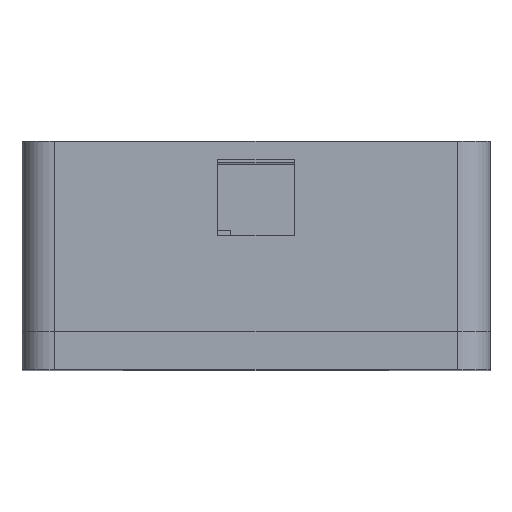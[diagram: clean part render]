
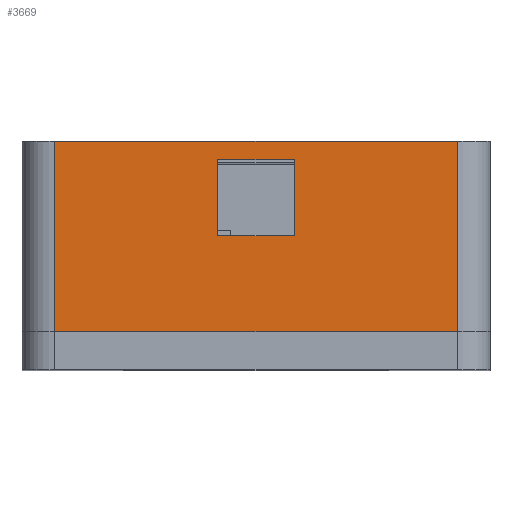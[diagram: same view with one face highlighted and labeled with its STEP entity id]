
A CAD part, top view. The second image highlights one B-rep face of the part: STEP entity #3669.
In plain terms, the highlighted planar face has unit normal (0, 0, 1).
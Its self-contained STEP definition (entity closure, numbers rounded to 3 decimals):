
#2711 = PLANE('',#2712);
#2712 = AXIS2_PLACEMENT_3D('',#2713,#2714,#2715);
#2713 = CARTESIAN_POINT('',(-18.,-4.5,-36.));
#2714 = DIRECTION('',(0.,1.,0.));
#2715 = DIRECTION('',(0.,0.,1.));
#2767 = PLANE('',#2768);
#2768 = AXIS2_PLACEMENT_3D('',#2769,#2770,#2771);
#2769 = CARTESIAN_POINT('',(-18.,13.,-36.));
#2770 = DIRECTION('',(0.,1.,0.));
#2771 = DIRECTION('',(0.,0.,1.));
#2793 = CYLINDRICAL_SURFACE('',#2794,3.);
#2794 = AXIS2_PLACEMENT_3D('',#2795,#2796,#2797);
#2795 = CARTESIAN_POINT('',(-15.,-4.5,33.));
#2796 = DIRECTION('',(0.,1.,0.));
#2797 = DIRECTION('',(-1.,0.,0.));
#2866 = VERTEX_POINT('',#2867);
#2867 = CARTESIAN_POINT('',(-15.,-4.5,36.));
#2889 = EDGE_CURVE('',#2866,#2890,#2892,.T.);
#2890 = VERTEX_POINT('',#2891);
#2891 = CARTESIAN_POINT('',(22.,-4.5,36.));
#2892 = SURFACE_CURVE('',#2893,(#2897,#2904),.PCURVE_S1.);
#2893 = LINE('',#2894,#2895);
#2894 = CARTESIAN_POINT('',(-18.,-4.5,36.));
#2895 = VECTOR('',#2896,1.);
#2896 = DIRECTION('',(1.,0.,0.));
#2897 = PCURVE('',#2711,#2898);
#2898 = DEFINITIONAL_REPRESENTATION('',(#2899),#2903);
#2899 = LINE('',#2900,#2901);
#2900 = CARTESIAN_POINT('',(72.,0.));
#2901 = VECTOR('',#2902,1.);
#2902 = DIRECTION('',(0.,1.));
#2903 = ( GEOMETRIC_REPRESENTATION_CONTEXT(2) 
PARAMETRIC_REPRESENTATION_CONTEXT() REPRESENTATION_CONTEXT('2D SPACE',''
  ) );
#2904 = PCURVE('',#2905,#2910);
#2905 = PLANE('',#2906);
#2906 = AXIS2_PLACEMENT_3D('',#2907,#2908,#2909);
#2907 = CARTESIAN_POINT('',(-18.,-4.5,36.));
#2908 = DIRECTION('',(0.,0.,1.));
#2909 = DIRECTION('',(1.,0.,0.));
#2910 = DEFINITIONAL_REPRESENTATION('',(#2911),#2915);
#2911 = LINE('',#2912,#2913);
#2912 = CARTESIAN_POINT('',(0.,0.));
#2913 = VECTOR('',#2914,1.);
#2914 = DIRECTION('',(1.,0.));
#2915 = ( GEOMETRIC_REPRESENTATION_CONTEXT(2) 
PARAMETRIC_REPRESENTATION_CONTEXT() REPRESENTATION_CONTEXT('2D SPACE',''
  ) );
#2938 = CYLINDRICAL_SURFACE('',#2939,3.);
#2939 = AXIS2_PLACEMENT_3D('',#2940,#2941,#2942);
#2940 = CARTESIAN_POINT('',(22.,-4.5,33.));
#2941 = DIRECTION('',(0.,1.,0.));
#2942 = DIRECTION('',(1.,0.,-0.));
#3285 = EDGE_CURVE('',#2866,#3286,#3288,.T.);
#3286 = VERTEX_POINT('',#3287);
#3287 = CARTESIAN_POINT('',(-15.,13.,36.));
#3288 = SURFACE_CURVE('',#3289,(#3293,#3300),.PCURVE_S1.);
#3289 = LINE('',#3290,#3291);
#3290 = CARTESIAN_POINT('',(-15.,-4.5,36.));
#3291 = VECTOR('',#3292,1.);
#3292 = DIRECTION('',(0.,1.,0.));
#3293 = PCURVE('',#2793,#3294);
#3294 = DEFINITIONAL_REPRESENTATION('',(#3295),#3299);
#3295 = LINE('',#3296,#3297);
#3296 = CARTESIAN_POINT('',(1.571,0.));
#3297 = VECTOR('',#3298,1.);
#3298 = DIRECTION('',(0.,1.));
#3299 = ( GEOMETRIC_REPRESENTATION_CONTEXT(2) 
PARAMETRIC_REPRESENTATION_CONTEXT() REPRESENTATION_CONTEXT('2D SPACE',''
  ) );
#3300 = PCURVE('',#2905,#3301);
#3301 = DEFINITIONAL_REPRESENTATION('',(#3302),#3306);
#3302 = LINE('',#3303,#3304);
#3303 = CARTESIAN_POINT('',(3.,0.));
#3304 = VECTOR('',#3305,1.);
#3305 = DIRECTION('',(0.,1.));
#3306 = ( GEOMETRIC_REPRESENTATION_CONTEXT(2) 
PARAMETRIC_REPRESENTATION_CONTEXT() REPRESENTATION_CONTEXT('2D SPACE',''
  ) );
#3360 = EDGE_CURVE('',#3286,#3361,#3363,.T.);
#3361 = VERTEX_POINT('',#3362);
#3362 = CARTESIAN_POINT('',(22.,13.,36.));
#3363 = SURFACE_CURVE('',#3364,(#3368,#3375),.PCURVE_S1.);
#3364 = LINE('',#3365,#3366);
#3365 = CARTESIAN_POINT('',(-18.,13.,36.));
#3366 = VECTOR('',#3367,1.);
#3367 = DIRECTION('',(1.,0.,0.));
#3368 = PCURVE('',#2767,#3369);
#3369 = DEFINITIONAL_REPRESENTATION('',(#3370),#3374);
#3370 = LINE('',#3371,#3372);
#3371 = CARTESIAN_POINT('',(72.,0.));
#3372 = VECTOR('',#3373,1.);
#3373 = DIRECTION('',(0.,1.));
#3374 = ( GEOMETRIC_REPRESENTATION_CONTEXT(2) 
PARAMETRIC_REPRESENTATION_CONTEXT() REPRESENTATION_CONTEXT('2D SPACE',''
  ) );
#3375 = PCURVE('',#2905,#3376);
#3376 = DEFINITIONAL_REPRESENTATION('',(#3377),#3381);
#3377 = LINE('',#3378,#3379);
#3378 = CARTESIAN_POINT('',(0.,17.5));
#3379 = VECTOR('',#3380,1.);
#3380 = DIRECTION('',(1.,0.));
#3381 = ( GEOMETRIC_REPRESENTATION_CONTEXT(2) 
PARAMETRIC_REPRESENTATION_CONTEXT() REPRESENTATION_CONTEXT('2D SPACE',''
  ) );
#3647 = EDGE_CURVE('',#2890,#3361,#3648,.T.);
#3648 = SURFACE_CURVE('',#3649,(#3653,#3660),.PCURVE_S1.);
#3649 = LINE('',#3650,#3651);
#3650 = CARTESIAN_POINT('',(22.,-4.5,36.));
#3651 = VECTOR('',#3652,1.);
#3652 = DIRECTION('',(0.,1.,0.));
#3653 = PCURVE('',#2938,#3654);
#3654 = DEFINITIONAL_REPRESENTATION('',(#3655),#3659);
#3655 = LINE('',#3656,#3657);
#3656 = CARTESIAN_POINT('',(-1.571,0.));
#3657 = VECTOR('',#3658,1.);
#3658 = DIRECTION('',(-0.,1.));
#3659 = ( GEOMETRIC_REPRESENTATION_CONTEXT(2) 
PARAMETRIC_REPRESENTATION_CONTEXT() REPRESENTATION_CONTEXT('2D SPACE',''
  ) );
#3660 = PCURVE('',#2905,#3661);
#3661 = DEFINITIONAL_REPRESENTATION('',(#3662),#3666);
#3662 = LINE('',#3663,#3664);
#3663 = CARTESIAN_POINT('',(40.,0.));
#3664 = VECTOR('',#3665,1.);
#3665 = DIRECTION('',(0.,1.));
#3666 = ( GEOMETRIC_REPRESENTATION_CONTEXT(2) 
PARAMETRIC_REPRESENTATION_CONTEXT() REPRESENTATION_CONTEXT('2D SPACE',''
  ) );
#3669 = ADVANCED_FACE('',(#3670,#3676),#2905,.T.);
#3670 = FACE_BOUND('',#3671,.T.);
#3671 = EDGE_LOOP('',(#3672,#3673,#3674,#3675));
#3672 = ORIENTED_EDGE('',*,*,#3360,.F.);
#3673 = ORIENTED_EDGE('',*,*,#3285,.F.);
#3674 = ORIENTED_EDGE('',*,*,#2889,.T.);
#3675 = ORIENTED_EDGE('',*,*,#3647,.T.);
#3676 = FACE_BOUND('',#3677,.T.);
#3677 = EDGE_LOOP('',(#3678,#3706,#3732,#3758));
#3678 = ORIENTED_EDGE('',*,*,#3679,.T.);
#3679 = EDGE_CURVE('',#3680,#3682,#3684,.T.);
#3680 = VERTEX_POINT('',#3681);
#3681 = CARTESIAN_POINT('',(7.,4.3,36.));
#3682 = VERTEX_POINT('',#3683);
#3683 = CARTESIAN_POINT('',(0.,4.3,36.));
#3684 = SURFACE_CURVE('',#3685,(#3689,#3695),.PCURVE_S1.);
#3685 = LINE('',#3686,#3687);
#3686 = CARTESIAN_POINT('',(-9.,4.3,36.));
#3687 = VECTOR('',#3688,1.);
#3688 = DIRECTION('',(-1.,0.,0.));
#3689 = PCURVE('',#2905,#3690);
#3690 = DEFINITIONAL_REPRESENTATION('',(#3691),#3694);
#3691 = B_SPLINE_CURVE_WITH_KNOTS('',1,(#3692,#3693),.UNSPECIFIED.,.F.,
  .F.,(2,2),(-16.,-9.),.PIECEWISE_BEZIER_KNOTS.);
#3692 = CARTESIAN_POINT('',(25.,8.8));
#3693 = CARTESIAN_POINT('',(18.,8.8));
#3694 = ( GEOMETRIC_REPRESENTATION_CONTEXT(2) 
PARAMETRIC_REPRESENTATION_CONTEXT() REPRESENTATION_CONTEXT('2D SPACE',''
  ) );
#3695 = PCURVE('',#3696,#3701);
#3696 = PLANE('',#3697);
#3697 = AXIS2_PLACEMENT_3D('',#3698,#3699,#3700);
#3698 = CARTESIAN_POINT('',(0.,4.3,32.5));
#3699 = DIRECTION('',(0.,1.,0.));
#3700 = DIRECTION('',(0.,0.,1.));
#3701 = DEFINITIONAL_REPRESENTATION('',(#3702),#3705);
#3702 = B_SPLINE_CURVE_WITH_KNOTS('',1,(#3703,#3704),.UNSPECIFIED.,.F.,
  .F.,(2,2),(-16.,-9.),.PIECEWISE_BEZIER_KNOTS.);
#3703 = CARTESIAN_POINT('',(3.5,7.));
#3704 = CARTESIAN_POINT('',(3.5,0.));
#3705 = ( GEOMETRIC_REPRESENTATION_CONTEXT(2) 
PARAMETRIC_REPRESENTATION_CONTEXT() REPRESENTATION_CONTEXT('2D SPACE',''
  ) );
#3706 = ORIENTED_EDGE('',*,*,#3707,.T.);
#3707 = EDGE_CURVE('',#3682,#3708,#3710,.T.);
#3708 = VERTEX_POINT('',#3709);
#3709 = CARTESIAN_POINT('',(0.,11.3,36.));
#3710 = SURFACE_CURVE('',#3711,(#3715,#3721),.PCURVE_S1.);
#3711 = LINE('',#3712,#3713);
#3712 = CARTESIAN_POINT('',(0.,-0.1,36.));
#3713 = VECTOR('',#3714,1.);
#3714 = DIRECTION('',(0.,1.,0.));
#3715 = PCURVE('',#2905,#3716);
#3716 = DEFINITIONAL_REPRESENTATION('',(#3717),#3720);
#3717 = B_SPLINE_CURVE_WITH_KNOTS('',1,(#3718,#3719),.UNSPECIFIED.,.F.,
  .F.,(2,2),(4.4,11.4),.PIECEWISE_BEZIER_KNOTS.);
#3718 = CARTESIAN_POINT('',(18.,8.8));
#3719 = CARTESIAN_POINT('',(18.,15.8));
#3720 = ( GEOMETRIC_REPRESENTATION_CONTEXT(2) 
PARAMETRIC_REPRESENTATION_CONTEXT() REPRESENTATION_CONTEXT('2D SPACE',''
  ) );
#3721 = PCURVE('',#3722,#3727);
#3722 = PLANE('',#3723);
#3723 = AXIS2_PLACEMENT_3D('',#3724,#3725,#3726);
#3724 = CARTESIAN_POINT('',(0.,4.3,32.5));
#3725 = DIRECTION('',(1.,0.,0.));
#3726 = DIRECTION('',(0.,0.,1.));
#3727 = DEFINITIONAL_REPRESENTATION('',(#3728),#3731);
#3728 = B_SPLINE_CURVE_WITH_KNOTS('',1,(#3729,#3730),.UNSPECIFIED.,.F.,
  .F.,(2,2),(4.4,11.4),.PIECEWISE_BEZIER_KNOTS.);
#3729 = CARTESIAN_POINT('',(3.5,0.));
#3730 = CARTESIAN_POINT('',(3.5,-7.));
#3731 = ( GEOMETRIC_REPRESENTATION_CONTEXT(2) 
PARAMETRIC_REPRESENTATION_CONTEXT() REPRESENTATION_CONTEXT('2D SPACE',''
  ) );
#3732 = ORIENTED_EDGE('',*,*,#3733,.F.);
#3733 = EDGE_CURVE('',#3734,#3708,#3736,.T.);
#3734 = VERTEX_POINT('',#3735);
#3735 = CARTESIAN_POINT('',(7.,11.3,36.));
#3736 = SURFACE_CURVE('',#3737,(#3741,#3747),.PCURVE_S1.);
#3737 = LINE('',#3738,#3739);
#3738 = CARTESIAN_POINT('',(-9.,11.3,36.));
#3739 = VECTOR('',#3740,1.);
#3740 = DIRECTION('',(-1.,0.,0.));
#3741 = PCURVE('',#2905,#3742);
#3742 = DEFINITIONAL_REPRESENTATION('',(#3743),#3746);
#3743 = B_SPLINE_CURVE_WITH_KNOTS('',1,(#3744,#3745),.UNSPECIFIED.,.F.,
  .F.,(2,2),(-16.,-9.),.PIECEWISE_BEZIER_KNOTS.);
#3744 = CARTESIAN_POINT('',(25.,15.8));
#3745 = CARTESIAN_POINT('',(18.,15.8));
#3746 = ( GEOMETRIC_REPRESENTATION_CONTEXT(2) 
PARAMETRIC_REPRESENTATION_CONTEXT() REPRESENTATION_CONTEXT('2D SPACE',''
  ) );
#3747 = PCURVE('',#3748,#3753);
#3748 = PLANE('',#3749);
#3749 = AXIS2_PLACEMENT_3D('',#3750,#3751,#3752);
#3750 = CARTESIAN_POINT('',(0.,11.3,32.5));
#3751 = DIRECTION('',(0.,1.,0.));
#3752 = DIRECTION('',(0.,0.,1.));
#3753 = DEFINITIONAL_REPRESENTATION('',(#3754),#3757);
#3754 = B_SPLINE_CURVE_WITH_KNOTS('',1,(#3755,#3756),.UNSPECIFIED.,.F.,
  .F.,(2,2),(-16.,-9.),.PIECEWISE_BEZIER_KNOTS.);
#3755 = CARTESIAN_POINT('',(3.5,7.));
#3756 = CARTESIAN_POINT('',(3.5,0.));
#3757 = ( GEOMETRIC_REPRESENTATION_CONTEXT(2) 
PARAMETRIC_REPRESENTATION_CONTEXT() REPRESENTATION_CONTEXT('2D SPACE',''
  ) );
#3758 = ORIENTED_EDGE('',*,*,#3759,.F.);
#3759 = EDGE_CURVE('',#3680,#3734,#3760,.T.);
#3760 = SURFACE_CURVE('',#3761,(#3765,#3771),.PCURVE_S1.);
#3761 = LINE('',#3762,#3763);
#3762 = CARTESIAN_POINT('',(7.,-0.1,36.));
#3763 = VECTOR('',#3764,1.);
#3764 = DIRECTION('',(0.,1.,0.));
#3765 = PCURVE('',#2905,#3766);
#3766 = DEFINITIONAL_REPRESENTATION('',(#3767),#3770);
#3767 = B_SPLINE_CURVE_WITH_KNOTS('',1,(#3768,#3769),.UNSPECIFIED.,.F.,
  .F.,(2,2),(4.4,11.4),.PIECEWISE_BEZIER_KNOTS.);
#3768 = CARTESIAN_POINT('',(25.,8.8));
#3769 = CARTESIAN_POINT('',(25.,15.8));
#3770 = ( GEOMETRIC_REPRESENTATION_CONTEXT(2) 
PARAMETRIC_REPRESENTATION_CONTEXT() REPRESENTATION_CONTEXT('2D SPACE',''
  ) );
#3771 = PCURVE('',#3772,#3777);
#3772 = PLANE('',#3773);
#3773 = AXIS2_PLACEMENT_3D('',#3774,#3775,#3776);
#3774 = CARTESIAN_POINT('',(7.,4.3,32.5));
#3775 = DIRECTION('',(1.,0.,0.));
#3776 = DIRECTION('',(0.,0.,1.));
#3777 = DEFINITIONAL_REPRESENTATION('',(#3778),#3781);
#3778 = B_SPLINE_CURVE_WITH_KNOTS('',1,(#3779,#3780),.UNSPECIFIED.,.F.,
  .F.,(2,2),(4.4,11.4),.PIECEWISE_BEZIER_KNOTS.);
#3779 = CARTESIAN_POINT('',(3.5,0.));
#3780 = CARTESIAN_POINT('',(3.5,-7.));
#3781 = ( GEOMETRIC_REPRESENTATION_CONTEXT(2) 
PARAMETRIC_REPRESENTATION_CONTEXT() REPRESENTATION_CONTEXT('2D SPACE',''
  ) );
